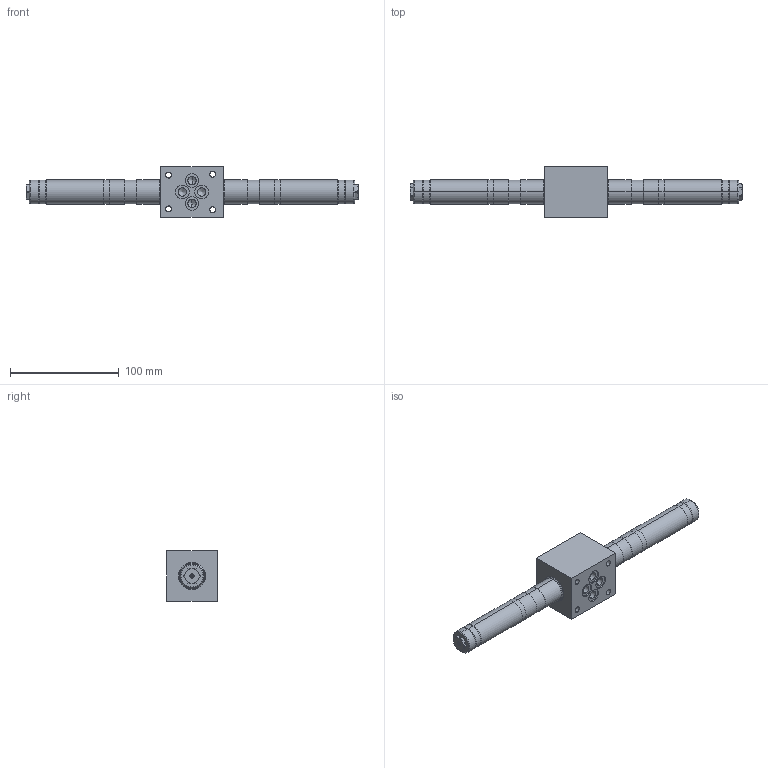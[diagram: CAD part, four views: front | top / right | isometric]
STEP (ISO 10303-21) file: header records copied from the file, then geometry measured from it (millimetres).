
FILE_DESCRIPTION (( 'STEP AP214' ), '1' );
FILE_NAME ('WDZFA06-Z546-4_3.STEP', '2015-07-23T06:48:57', ( '' ), ( '' ), 'SwSTEP 2.0', 'SolidWorks 2014', '' );
FILE_SCHEMA (( 'AUTOMOTIVE_DESIGN' ));
Length unit declared in the file: millimetre
Products named in the file (2): WDZFA06-Z546-4_3
Bounding box: 304.7 x 46 x 46 mm (x, y, z)
Volume: 206107.9 mm3; surface area: 43591.2 mm2
Topology: 9 solids, 15 shells, 409 faces, 941 edges, 584 vertices
Faces by surface type: cylinder 152, plane 110, cone 84, bspline 35, torus 28
Entity records: 17293 total; most frequent: CARTESIAN_POINT 3443, DIRECTION 2031, ORIENTED_EDGE 1858, EDGE_CURVE 929, AXIS2_PLACEMENT_3D 824, VERTEX_POINT 584, EDGE_LOOP 479, CIRCLE 448
